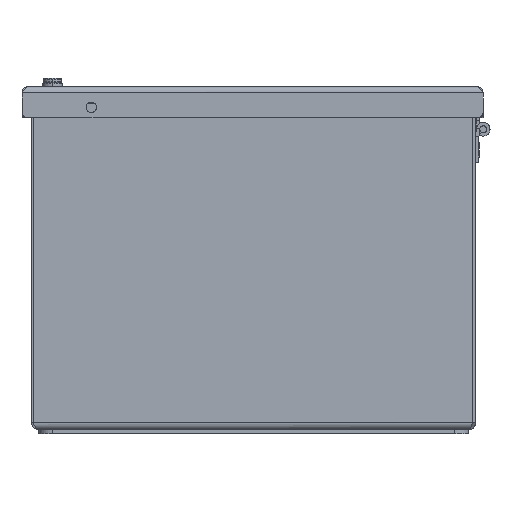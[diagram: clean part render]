
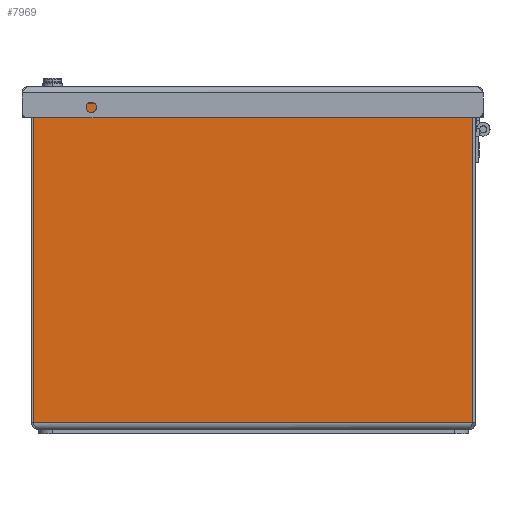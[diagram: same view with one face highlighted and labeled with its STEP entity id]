
A CAD part, left-side view. The second image highlights one B-rep face of the part: STEP entity #7969.
In plain terms, the highlighted planar face has unit normal (-1, 0, 0).
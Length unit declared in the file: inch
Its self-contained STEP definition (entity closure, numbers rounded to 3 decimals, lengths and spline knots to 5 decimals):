
#347=DIRECTION('',(0.,-1.,0.));
#348=VECTOR('',#347,7.918);
#349=CARTESIAN_POINT('',(0.,7.978,0.12));
#350=LINE('',#349,#348);
#2548=CARTESIAN_POINT('',(0.,0.112,5.878));
#2549=DIRECTION('',(-1.,0.,0.));
#2550=DIRECTION('',(0.,-1.,0.));
#2551=AXIS2_PLACEMENT_3D('',#2548,#2549,#2550);
#2556=DIRECTION('',(0.,0.,1.));
#2557=VECTOR('',#2556,5.768);
#2558=CARTESIAN_POINT('',(0.,7.978,0.12));
#2559=LINE('',#2558,#2557);
#2563=DIRECTION('',(0.,0.,1.));
#2564=VECTOR('',#2563,0.042);
#2565=CARTESIAN_POINT('',(0.,0.75625,5.888));
#2566=LINE('',#2565,#2564);
#2570=DIRECTION('',(0.,1.,0.));
#2571=VECTOR('',#2570,0.64425);
#2572=CARTESIAN_POINT('',(0.,0.112,5.93));
#2573=LINE('',#2572,#2571);
#2591=DIRECTION('',(0.,0.,1.));
#2592=VECTOR('',#2591,5.758);
#2593=CARTESIAN_POINT('',(0.,0.06,0.12));
#2594=LINE('',#2593,#2592);
#2925=DIRECTION('',(0.,-1.,0.));
#2926=VECTOR('',#2925,7.22175);
#2927=CARTESIAN_POINT('',(0.,7.978,5.888));
#2928=LINE('',#2927,#2926);
#4077=CARTESIAN_POINT('',(0.,0.06,0.12));
#4079=VERTEX_POINT('',#4077);
#4097=CARTESIAN_POINT('',(0.,7.978,0.12));
#4099=VERTEX_POINT('',#4097);
#4105=CARTESIAN_POINT('',(0.,0.75625,5.888));
#4106=CARTESIAN_POINT('',(0.,0.75625,5.93));
#4107=VERTEX_POINT('',#4105);
#4108=VERTEX_POINT('',#4106);
#4341=CARTESIAN_POINT('',(0.,0.06,5.878));
#4342=CARTESIAN_POINT('',(0.,0.112,5.93));
#4343=VERTEX_POINT('',#4341);
#4344=VERTEX_POINT('',#4342);
#4378=CARTESIAN_POINT('',(0.,7.978,5.888));
#4380=VERTEX_POINT('',#4378);
#7950=CARTESIAN_POINT('',(0.,8.,0.));
#7951=DIRECTION('',(-1.,0.,0.));
#7952=DIRECTION('',(0.,-1.,0.));
#7953=AXIS2_PLACEMENT_3D('',#7950,#7951,#7952);
#7954=PLANE('',#7953);
#7955=ORIENTED_EDGE('',*,*,#7940,.F.);
#7957=ORIENTED_EDGE('',*,*,#7956,.F.);
#7958=ORIENTED_EDGE('',*,*,#5027,.F.);
#7960=ORIENTED_EDGE('',*,*,#7959,.T.);
#7962=ORIENTED_EDGE('',*,*,#7961,.T.);
#7964=ORIENTED_EDGE('',*,*,#7963,.T.);
#7966=ORIENTED_EDGE('',*,*,#7965,.F.);
#7967=EDGE_LOOP('',(#7955,#7957,#7958,#7960,#7962,#7964,#7966));
#7968=FACE_OUTER_BOUND('',#7967,.F.);
#2552=CIRCLE('',#2551,0.052);
#5027=EDGE_CURVE('',#4099,#4079,#350,.T.);
#7940=EDGE_CURVE('',#4343,#4344,#2552,.T.);
#7956=EDGE_CURVE('',#4079,#4343,#2594,.T.);
#7959=EDGE_CURVE('',#4099,#4380,#2559,.T.);
#7961=EDGE_CURVE('',#4380,#4107,#2928,.T.);
#7963=EDGE_CURVE('',#4107,#4108,#2566,.T.);
#7965=EDGE_CURVE('',#4344,#4108,#2573,.T.);
#7969=ADVANCED_FACE('',(#7968),#7954,.T.);
